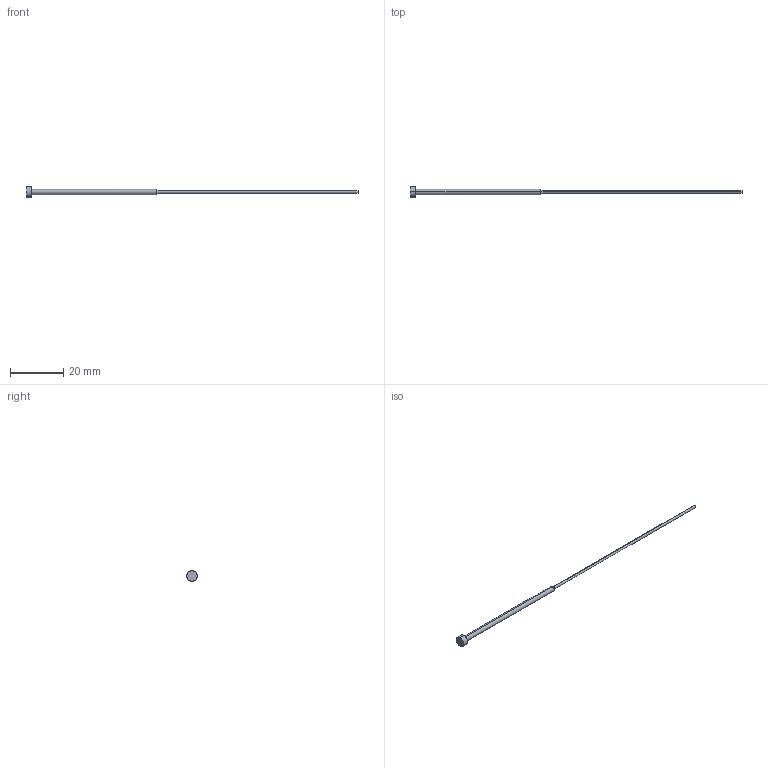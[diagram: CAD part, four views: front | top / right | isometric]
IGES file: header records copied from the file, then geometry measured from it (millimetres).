
Start section: START RECORD GO HERE.
Global section: file name: 359-1X2X125.igs; native system: DASSAULT SYSTEMES CATIA V5 R20 - www.3ds.com; preprocessor: CATIA Version 5 Release 20 ; author: Utente; organization: NB04-ASUS; date: 20210514.202258; units: millimetre
Bounding box: 125 x 4 x 4 mm (x, y, z)
Surface area: 583.9 mm2 (no closed solid volume)
Topology: 0 solids, 0 shells, 13 faces, 76 edges, 76 vertices
Faces by surface type: revolution 10, plane 3
